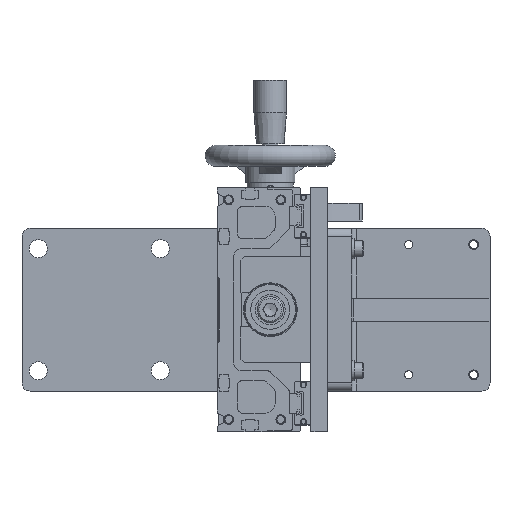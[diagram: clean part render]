
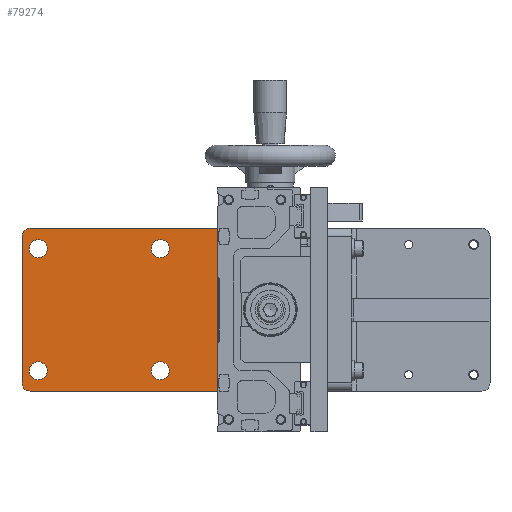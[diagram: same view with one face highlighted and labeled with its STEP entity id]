
A CAD part, front view. The second image highlights one B-rep face of the part: STEP entity #79274.
In plain terms, the highlighted planar face has unit normal (0, -1, 0).
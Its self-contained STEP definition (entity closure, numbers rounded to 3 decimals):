
#78675=CARTESIAN_POINT('',(0.0,-593.75,-212.75));
#78676=VERTEX_POINT('',#78675);
#78683=CARTESIAN_POINT('',(0.0,-593.75,-312.75));
#78684=VERTEX_POINT('',#78683);
#78685=CARTESIAN_POINT('',(0.0,-593.75,-212.75));
#78686=DIRECTION('',(0.0,0.0,-1.0));
#78687=VECTOR('',#78686,1.0);
#78688=LINE('',#78685,#78687);
#78689=EDGE_CURVE('',#78676,#78684,#78688,.T.);
#78884=CARTESIAN_POINT('',(-120.0,-593.75,-217.75));
#78885=VERTEX_POINT('',#78884);
#78886=CARTESIAN_POINT('',(-120.0,-593.75,-307.75));
#78887=VERTEX_POINT('',#78886);
#78888=CARTESIAN_POINT('',(-120.0,-593.75,-217.75));
#78889=DIRECTION('',(0.0,0.0,-1.0));
#78890=VECTOR('',#78889,1.0);
#78891=LINE('',#78888,#78890);
#78892=EDGE_CURVE('',#78885,#78887,#78891,.T.);
#79019=CARTESIAN_POINT('',(-115.0,-593.75,-212.75));
#79020=VERTEX_POINT('',#79019);
#79021=CARTESIAN_POINT('',(-115.,-593.75,-217.75));
#79022=DIRECTION('',(0.0,1.0,0.0));
#79023=DIRECTION('',(-1.0,0.0,0.));
#79024=AXIS2_PLACEMENT_3D('',#79021,#79022,#79023);
#79025=CIRCLE('',#79024,5.);
#79026=EDGE_CURVE('',#78885,#79020,#79025,.T.);
#79052=CARTESIAN_POINT('',(-115.0,-593.75,-312.75));
#79053=VERTEX_POINT('',#79052);
#79054=CARTESIAN_POINT('',(-115.,-593.75,-307.75));
#79055=DIRECTION('',(0.0,1.0,0.0));
#79056=DIRECTION('',(0.,0.0,-1.0));
#79057=AXIS2_PLACEMENT_3D('',#79054,#79055,#79056);
#79058=CIRCLE('',#79057,5.);
#79059=EDGE_CURVE('',#79053,#78887,#79058,.T.);
#79183=CARTESIAN_POINT('',(-115.0,-593.75,-212.75));
#79184=DIRECTION('',(1.0,0.0,0.0));
#79185=VECTOR('',#79184,1.0);
#79186=LINE('',#79183,#79185);
#79187=EDGE_CURVE('',#79020,#78676,#79186,.T.);
#79201=CARTESIAN_POINT('',(-115.0,-593.75,-312.75));
#79202=DIRECTION('',(1.0,0.0,0.0));
#79203=VECTOR('',#79202,1.0);
#79204=LINE('',#79201,#79203);
#79205=EDGE_CURVE('',#79053,#78684,#79204,.T.);
#79217=CARTESIAN_POINT('',(-126.0,-593.75,-317.75));
#79218=DIRECTION('',(0.0,1.0,0.0));
#79219=DIRECTION('',(0.0,0.0,1.0));
#79220=AXIS2_PLACEMENT_3D('',#79217,#79218,#79219);
#79221=PLANE('',#79220);
#79222=ORIENTED_EDGE('',*,*,#79187,.F.);
#79223=ORIENTED_EDGE('',*,*,#79026,.F.);
#79224=ORIENTED_EDGE('',*,*,#78892,.T.);
#79225=ORIENTED_EDGE('',*,*,#79059,.F.);
#79226=ORIENTED_EDGE('',*,*,#79205,.T.);
#79227=ORIENTED_EDGE('',*,*,#78689,.F.);
#79228=EDGE_LOOP('',(#79222,#79223,#79224,#79225,#79226,#79227));
#79229=FACE_OUTER_BOUND('',#79228,.T.);
#79230=CARTESIAN_POINT('',(-110.0,-593.75,-305.75));
#79231=VERTEX_POINT('',#79230);
#79232=CARTESIAN_POINT('',(-110.,-593.75,-300.25));
#79233=DIRECTION('',(0.0,-1.0,0.0));
#79234=DIRECTION('',(0.,0.0,-1.0));
#79235=AXIS2_PLACEMENT_3D('',#79232,#79233,#79234);
#79236=CIRCLE('',#79235,5.5);
#79237=EDGE_CURVE('',#79231,#79231,#79236,.T.);
#79238=ORIENTED_EDGE('',*,*,#79237,.F.);
#79239=EDGE_LOOP('',(#79238));
#79240=FACE_BOUND('',#79239,.T.);
#79241=CARTESIAN_POINT('',(-35.0,-593.75,-230.75));
#79242=VERTEX_POINT('',#79241);
#79243=CARTESIAN_POINT('',(-35.,-593.75,-225.25));
#79244=DIRECTION('',(0.0,-1.0,0.0));
#79245=DIRECTION('',(0.,0.0,-1.0));
#79246=AXIS2_PLACEMENT_3D('',#79243,#79244,#79245);
#79247=CIRCLE('',#79246,5.5);
#79248=EDGE_CURVE('',#79242,#79242,#79247,.T.);
#79249=ORIENTED_EDGE('',*,*,#79248,.F.);
#79250=EDGE_LOOP('',(#79249));
#79251=FACE_BOUND('',#79250,.T.);
#79252=CARTESIAN_POINT('',(-35.0,-593.75,-305.75));
#79253=VERTEX_POINT('',#79252);
#79254=CARTESIAN_POINT('',(-35.,-593.75,-300.25));
#79255=DIRECTION('',(0.0,-1.0,0.0));
#79256=DIRECTION('',(0.,0.0,-1.0));
#79257=AXIS2_PLACEMENT_3D('',#79254,#79255,#79256);
#79258=CIRCLE('',#79257,5.5);
#79259=EDGE_CURVE('',#79253,#79253,#79258,.T.);
#79260=ORIENTED_EDGE('',*,*,#79259,.F.);
#79261=EDGE_LOOP('',(#79260));
#79262=FACE_BOUND('',#79261,.T.);
#79263=CARTESIAN_POINT('',(-110.0,-593.75,-230.75));
#79264=VERTEX_POINT('',#79263);
#79265=CARTESIAN_POINT('',(-110.0,-593.75,-225.25));
#79266=DIRECTION('',(0.0,-1.0,0.0));
#79267=DIRECTION('',(0.0,0.0,-1.0));
#79268=AXIS2_PLACEMENT_3D('',#79265,#79266,#79267);
#79269=CIRCLE('',#79268,5.5);
#79270=EDGE_CURVE('',#79264,#79264,#79269,.T.);
#79271=ORIENTED_EDGE('',*,*,#79270,.F.);
#79272=EDGE_LOOP('',(#79271));
#79273=FACE_BOUND('',#79272,.T.);
#79274=ADVANCED_FACE('',(#79229,#79240,#79251,#79262,#79273),#79221,.F.);
